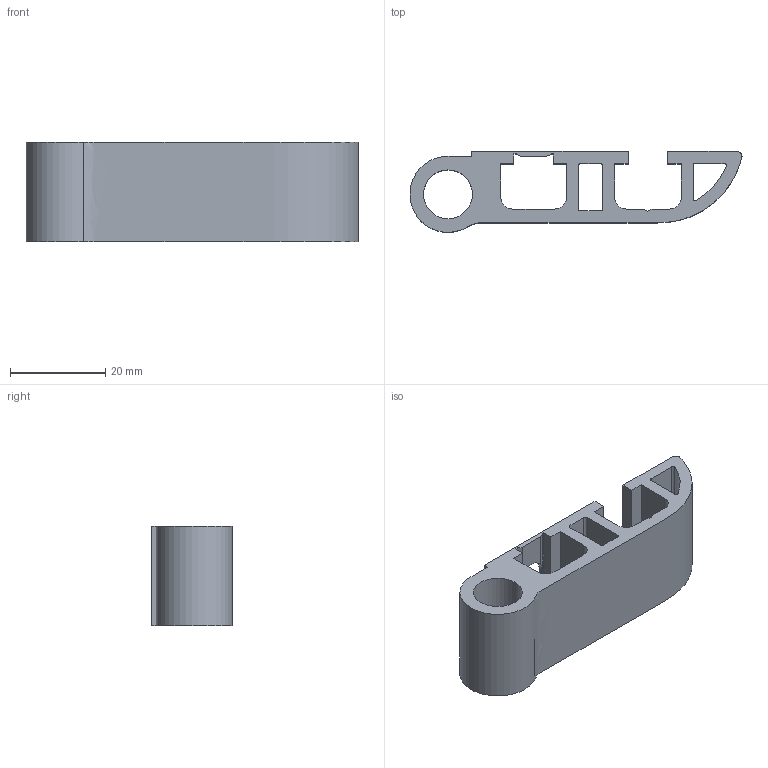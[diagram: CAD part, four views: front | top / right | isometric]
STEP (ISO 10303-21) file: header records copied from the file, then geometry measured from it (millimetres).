
FILE_DESCRIPTION (( 'STEP AP203' ), '1' );
FILE_NAME ('013.100.036.STEP', '2021-11-15T13:41:04', ( '' ), ( '' ), 'SwSTEP 2.0', 'SolidWorks 2018', '' );
FILE_SCHEMA (( 'CONFIG_CONTROL_DESIGN' ));
Length unit declared in the file: millimetre
Products named in the file (1): 013.100.036
Bounding box: 69.75 x 16.99 x 21 mm (x, y, z)
Volume: 10494.1 mm3; surface area: 7784.4 mm2
Topology: 1 solids, 1 shells, 59 faces, 174 edges, 116 vertices
Faces by surface type: plane 37, cylinder 21, bspline 1
Entity records: 2105 total; most frequent: CARTESIAN_POINT 407, ORIENTED_EDGE 348, DIRECTION 328, EDGE_CURVE 174, LINE 126, VECTOR 126, VERTEX_POINT 116, AXIS2_PLACEMENT_3D 101
